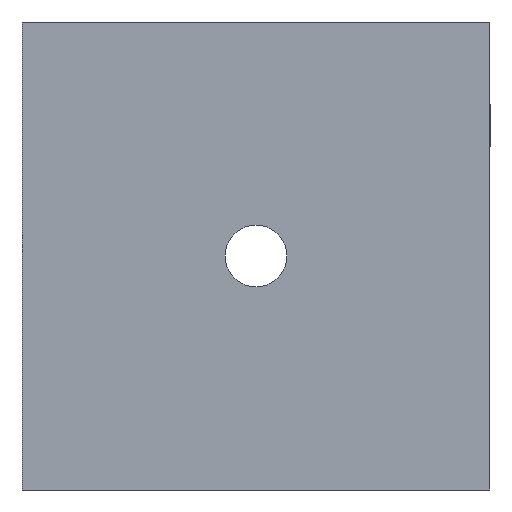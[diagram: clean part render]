
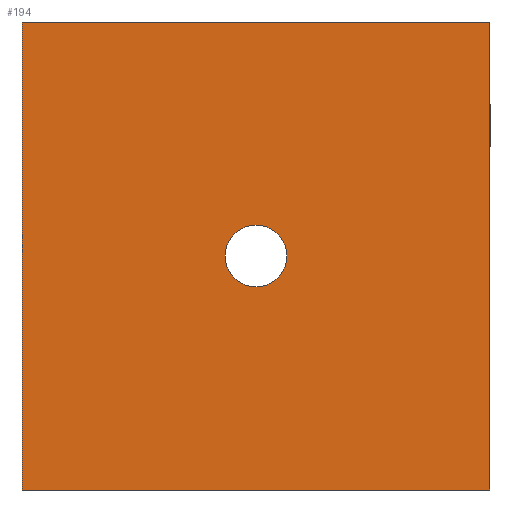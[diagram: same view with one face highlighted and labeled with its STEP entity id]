
A CAD part, front view. The second image highlights one B-rep face of the part: STEP entity #194.
In plain terms, the highlighted planar face has unit normal (0, -1, 0).
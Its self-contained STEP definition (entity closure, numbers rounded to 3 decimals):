
#20=FACE_BOUND('',#48,.T.);
#24=CIRCLE('',#226,1.65);
#34=FACE_OUTER_BOUND('',#47,.T.);
#47=EDGE_LOOP('',(#172,#173,#174,#175));
#48=EDGE_LOOP('',(#176));
#59=LINE('',#309,#79);
#61=LINE('',#319,#81);
#65=LINE('',#326,#85);
#67=LINE('',#329,#87);
#79=VECTOR('',#256,10.);
#81=VECTOR('',#266,10.);
#85=VECTOR('',#272,10.);
#87=VECTOR('',#276,10.);
#97=VERTEX_POINT('',#305);
#98=VERTEX_POINT('',#307);
#100=VERTEX_POINT('',#313);
#101=VERTEX_POINT('',#317);
#102=VERTEX_POINT('',#318);
#117=EDGE_CURVE('',#98,#97,#59,.T.);
#120=EDGE_CURVE('',#100,#100,#24,.T.);
#121=EDGE_CURVE('',#101,#102,#61,.T.);
#125=EDGE_CURVE('',#101,#97,#65,.T.);
#127=EDGE_CURVE('',#102,#98,#67,.T.);
#172=ORIENTED_EDGE('',*,*,#127,.F.);
#173=ORIENTED_EDGE('',*,*,#121,.F.);
#174=ORIENTED_EDGE('',*,*,#125,.T.);
#175=ORIENTED_EDGE('',*,*,#117,.F.);
#176=ORIENTED_EDGE('',*,*,#120,.F.);
#184=PLANE('',#231);
#194=ADVANCED_FACE('',(#34,#20),#184,.F.);
#226=AXIS2_PLACEMENT_3D('',#315,#262,#263);
#231=AXIS2_PLACEMENT_3D('',#332,#280,#281);
#256=DIRECTION('',(1.,0.,0.));
#262=DIRECTION('center_axis',(0.,-1.,0.));
#263=DIRECTION('ref_axis',(1.,0.,0.));
#266=DIRECTION('',(-1.,0.,0.));
#272=DIRECTION('',(0.,0.,1.));
#276=DIRECTION('',(0.,0.,1.));
#280=DIRECTION('center_axis',(0.,1.,0.));
#281=DIRECTION('ref_axis',(0.,0.,1.));
#305=CARTESIAN_POINT('',(0.,0.,0.));
#307=CARTESIAN_POINT('',(-25.,0.,0.));
#309=CARTESIAN_POINT('',(-25.,0.,0.));
#313=CARTESIAN_POINT('',(-14.15,0.,-12.5));
#315=CARTESIAN_POINT('Origin',(-12.5,0.,-12.5));
#317=CARTESIAN_POINT('',(0.,0.,-25.));
#318=CARTESIAN_POINT('',(-25.,0.,-25.));
#319=CARTESIAN_POINT('',(0.,0.,-25.));
#326=CARTESIAN_POINT('',(0.,0.,-5.));
#329=CARTESIAN_POINT('',(-25.,0.,-25.));
#332=CARTESIAN_POINT('Origin',(-12.5,0.,-15.));
